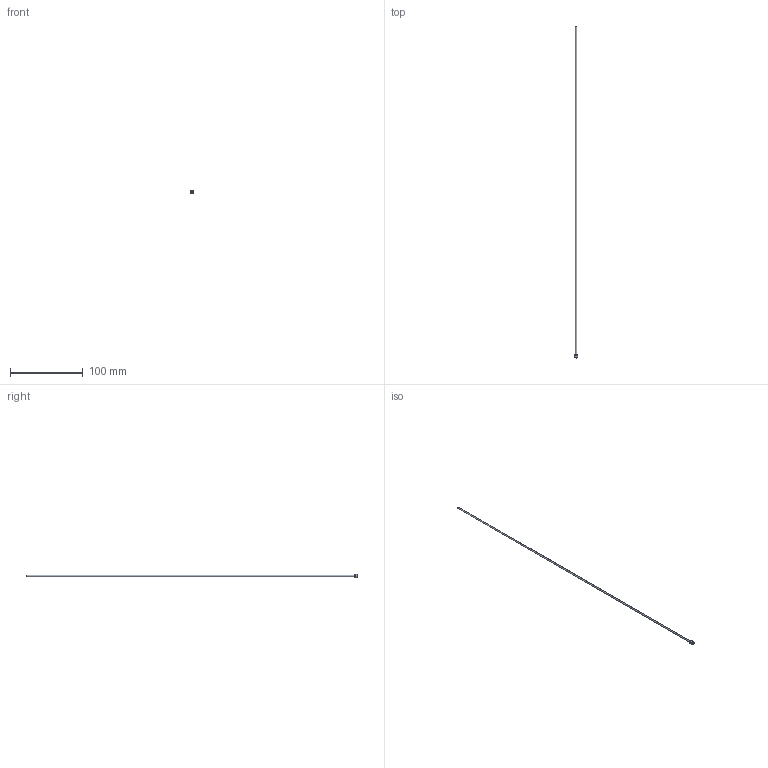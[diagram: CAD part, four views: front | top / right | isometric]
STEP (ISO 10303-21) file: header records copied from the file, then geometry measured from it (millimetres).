
FILE_DESCRIPTION(/* description */ (''),/* implementation_level */ '2;1');
FILE_NAME(/* name */ 'C:/Users/drich/Desktop/JHF090T-18 v1.step',/* time_stamp */ '2020-01-02T20:01:02-06:00',/* author */ (''),/* organization */ (''),/* preprocessor_version */ 'ST-DEVELOPER v18',/* originating_system */ 'Autodesk Translation Framework v8.12.0.6',/* authorisation */ '');
FILE_SCHEMA (('AUTOMOTIVE_DESIGN { 1 0 10303 214 3 1 1 }'));
Length unit declared in the file: inch
Products named in the file (1): JHF090T-18
Bounding box: 4.8 x 457.2 x 4.8 mm (x, y, z)
Volume: 607.1 mm3; surface area: 6120.2 mm2
Topology: 1 solids, 1 shells, 10 faces, 25 edges, 19 vertices
Faces by surface type: cylinder 4, plane 4, cone 1, torus 1
Full cylindrical faces by diameter (mm): 1.93 x1, 2.286 x1, 4.75 x1, 4.801 x1
Entity records: 364 total; most frequent: DIRECTION 67, CARTESIAN_POINT 55, ORIENTED_EDGE 50, AXIS2_PLACEMENT_3D 31, EDGE_CURVE 25, CIRCLE 20, VERTEX_POINT 19, EDGE_LOOP 14
